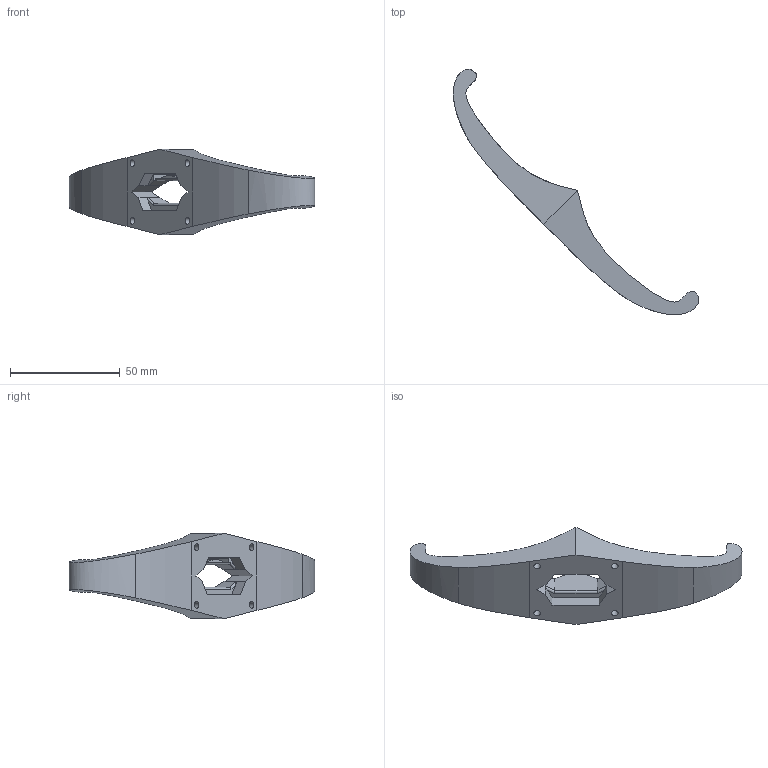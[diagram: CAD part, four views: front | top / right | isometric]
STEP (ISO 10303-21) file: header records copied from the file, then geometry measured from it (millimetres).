
FILE_DESCRIPTION(/* description */ ('STEP AP242 Edition 2','CAx-IF Rec.Pracs.---Representation and Presentation of Product Manufacturing Information (PMI)---4.0---2014-10-13','CAx-IF Rec.Pracs.---3D Tessellated Geometry---0.4---2014-09-14','2;1','CAx-IF Rec.Pracs.---User Defined Attributes---1.5---2016-08-15'),/* implementation_level */ '2;1');
FILE_NAME(/* name */ 'Part Studio 2 - Guard',/* time_stamp */ '2026-02-06T19:17:58Z',/* author */ (''),/* organization */ (''),/* preprocessor_version */ 'ST-DEVELOPER v20',/* originating_system */ 'ONSHAPE BY PTC INC, 1.210',/* authorisation */ ' ');
FILE_SCHEMA (('AP242_MANAGED_MODEL_BASED_3D_ENGINEERING_MIM_LF { 1 0 10303 442 3 1 4 }'));
Length unit declared in the file: metre
Products named in the file (1): Guard
Bounding box: 111.48 x 111.48 x 38.76 mm (x, y, z)
Volume: 40446.5 mm3; surface area: 13324.5 mm2
Topology: 1 solids, 1 shells, 57 faces, 144 edges, 92 vertices
Faces by surface type: plane 29, bspline 16, cylinder 12
Full cylindrical faces by diameter (mm): 3 x4
Entity records: 2105 total; most frequent: CARTESIAN_POINT 875, ORIENTED_EDGE 280, DIRECTION 183, EDGE_CURVE 140, VERTEX_POINT 92, LINE 71, VECTOR 71, EDGE_LOOP 66
